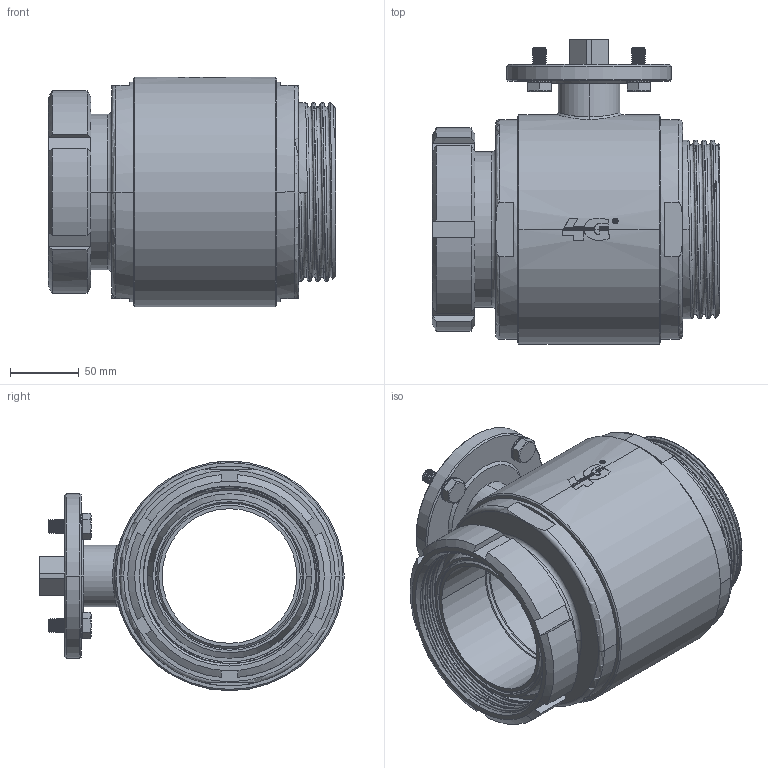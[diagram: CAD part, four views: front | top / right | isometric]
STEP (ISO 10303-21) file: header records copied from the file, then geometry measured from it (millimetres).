
FILE_DESCRIPTION((''),'2;1');
FILE_NAME('1030266541F','2017-05-04T',('UFFICIO TECNICO'),('CDM Tecnoconsulting'),'CREO PARAMETRIC BY PTC INC, 2015290','CREO PARAMETRIC BY PTC INC, 2015290','');
FILE_SCHEMA(('CONFIG_CONTROL_DESIGN'));
Length unit declared in the file: millimetre
Products named in the file (1): 1030266541F
Bounding box: 209 x 221.5 x 167 mm (x, y, z)
Surface area: 296000.9 mm2 (no closed solid volume)
Topology: 0 solids, 40 shells, 958 faces, 3689 edges, 2708 vertices
Faces by surface type: plane 376, cylinder 289, cone 186, bspline 80, torus 16, extrusion 11
Entity records: 69562 total; most frequent: CARTESIAN_POINT 41819, ORIENTED_EDGE 5734, DIRECTION 4736, EDGE_CURVE 3687, VERTEX_POINT 2708, AXIS2_PLACEMENT_3D 1730, B_SPLINE_CURVE_WITH_KNOTS 1570, VECTOR 1276
